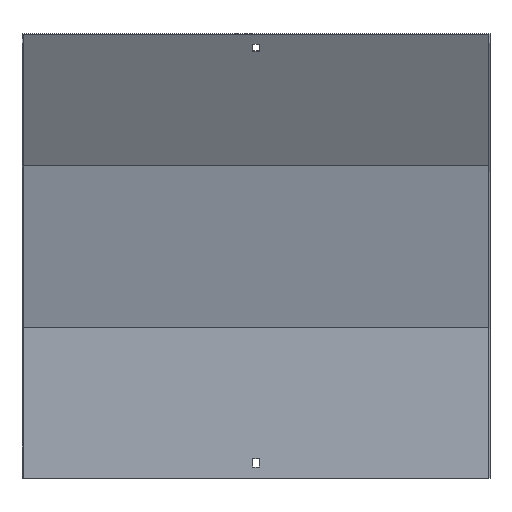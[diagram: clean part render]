
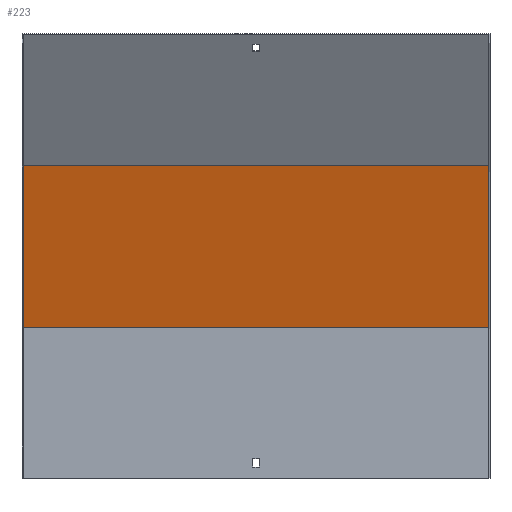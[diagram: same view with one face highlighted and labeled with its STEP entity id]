
A CAD part, front view. The second image highlights one B-rep face of the part: STEP entity #223.
In plain terms, the highlighted planar face has unit normal (0, -0.966, -0.259).
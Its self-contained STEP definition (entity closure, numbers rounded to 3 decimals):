
#9 = VERTEX_POINT ( 'NONE', #671 ) ;
#24 = LINE ( 'NONE', #683, #665 ) ;
#26 = DIRECTION ( 'NONE',  ( 0., 0.259, -0.966 ) ) ;
#57 = ORIENTED_EDGE ( 'NONE', *, *, #808, .F. ) ;
#59 = EDGE_CURVE ( 'NONE', #210, #474, #211, .T. ) ;
#63 = VECTOR ( 'NONE', #431, 1000. ) ;
#89 = CARTESIAN_POINT ( 'NONE',  ( -250., 18.5, 162.436 ) ) ;
#115 = PLANE ( 'NONE',  #572 ) ;
#192 = EDGE_LOOP ( 'NONE', ( #57, #247, #530, #377 ) ) ;
#210 = VERTEX_POINT ( 'NONE', #507 ) ;
#211 = LINE ( 'NONE', #494, #337 ) ;
#223 = ADVANCED_FACE ( 'NONE', ( #838 ), #115, .T. ) ;
#247 = ORIENTED_EDGE ( 'NONE', *, *, #59, .F. ) ;
#337 = VECTOR ( 'NONE', #755, 1000. ) ;
#339 = DIRECTION ( 'NONE',  ( -1., 0., 0. ) ) ;
#344 = CARTESIAN_POINT ( 'NONE',  ( 250., 57.87, 15.506 ) ) ;
#363 = LINE ( 'NONE', #380, #725 ) ;
#377 = ORIENTED_EDGE ( 'NONE', *, *, #734, .T. ) ;
#380 = CARTESIAN_POINT ( 'NONE',  ( -250., 57.87, 15.506 ) ) ;
#402 = EDGE_CURVE ( 'NONE', #210, #9, #428, .T. ) ;
#428 = LINE ( 'NONE', #344, #63 ) ;
#431 = DIRECTION ( 'NONE',  ( 0., -0.259, 0.966 ) ) ;
#474 = VERTEX_POINT ( 'NONE', #89 ) ;
#494 = CARTESIAN_POINT ( 'NONE',  ( 251.5, 18.5, 162.436 ) ) ;
#500 = DIRECTION ( 'NONE',  ( 0., -0.966, -0.259 ) ) ;
#506 = DIRECTION ( 'NONE',  ( 0., -0.259, 0.966 ) ) ;
#507 = CARTESIAN_POINT ( 'NONE',  ( 250., 18.5, 162.436 ) ) ;
#530 = ORIENTED_EDGE ( 'NONE', *, *, #402, .T. ) ;
#572 = AXIS2_PLACEMENT_3D ( 'NONE', #770, #500, #26 ) ;
#622 = CARTESIAN_POINT ( 'NONE',  ( -250., -28.054, 336.178 ) ) ;
#653 = VERTEX_POINT ( 'NONE', #622 ) ;
#665 = VECTOR ( 'NONE', #339, 1000. ) ;
#671 = CARTESIAN_POINT ( 'NONE',  ( 250., -28.054, 336.178 ) ) ;
#683 = CARTESIAN_POINT ( 'NONE',  ( 251.5, -28.054, 336.178 ) ) ;
#725 = VECTOR ( 'NONE', #506, 1000. ) ;
#734 = EDGE_CURVE ( 'NONE', #9, #653, #24, .T. ) ;
#755 = DIRECTION ( 'NONE',  ( -1., 0., 0. ) ) ;
#770 = CARTESIAN_POINT ( 'NONE',  ( 251.5, 17.87, 164.788 ) ) ;
#808 = EDGE_CURVE ( 'NONE', #474, #653, #363, .T. ) ;
#838 = FACE_OUTER_BOUND ( 'NONE', #192, .T. ) ;
